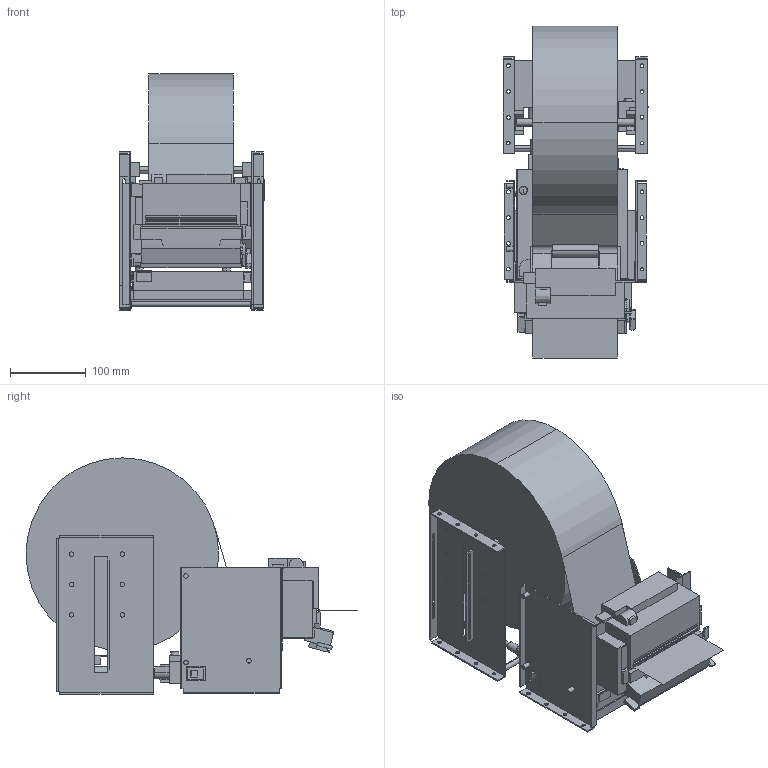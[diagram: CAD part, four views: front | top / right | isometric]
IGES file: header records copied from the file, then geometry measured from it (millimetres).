
Start section: Elysium IGES Interface
Global section: file name: X:\Sales\HP公開用\0916\TUP942_横置USB_0920_out.igs,    ; native system: Unknown; preprocessor: Unknown; author: CADDoctor; organization: ELYSIUM; date: 20110921.081328; units: millimetre
Bounding box: 192.1 x 437.7 x 311.6 mm (x, y, z)
Volume: 7822431.7 mm3; surface area: 742684.1 mm2
Topology: 15 solids, 15 shells, 704 faces, 1934 edges, 1285 vertices
Faces by surface type: bspline 704
